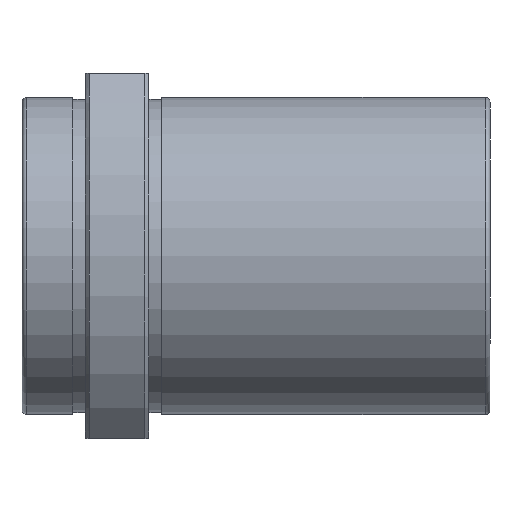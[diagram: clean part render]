
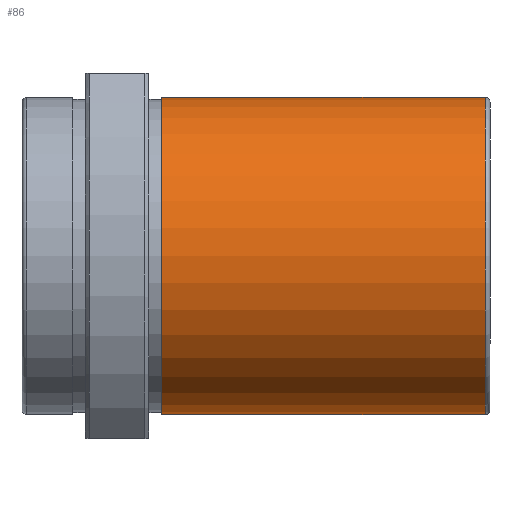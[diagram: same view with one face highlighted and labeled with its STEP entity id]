
A CAD part, top view. The second image highlights one B-rep face of the part: STEP entity #86.
In plain terms, the highlighted cylindrical face has radius 20 mm (diameter 40 mm), a full revolution.
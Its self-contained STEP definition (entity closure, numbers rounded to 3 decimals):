
#86=ADVANCED_FACE('',(#143,#144),#145,.T.);
#143=FACE_OUTER_BOUND('',#242,.T.);
#144=FACE_OUTER_BOUND('',#243,.T.);
#145=CYLINDRICAL_SURFACE('',#244,20.0);
#242=EDGE_LOOP('',(#394));
#243=EDGE_LOOP('',(#395));
#244=AXIS2_PLACEMENT_3D('',#396,#397,#398);
#394=ORIENTED_EDGE('',*,*,#545,.T.);
#395=ORIENTED_EDGE('',*,*,#546,.T.);
#396=CARTESIAN_POINT('',(43.0,0.,0.));
#397=DIRECTION('',(1.0,0.,0.));
#398=DIRECTION('',(0.,-1.0,0.));
#545=EDGE_CURVE('',#624,#624,#625,.T.);
#546=EDGE_CURVE('',#626,#626,#627,.F.);
#624=VERTEX_POINT('',#752);
#625=CIRCLE('',#753,20.0);
#626=VERTEX_POINT('',#754);
#627=CIRCLE('',#755,20.0);
#752=CARTESIAN_POINT('',(1.6,0.,-20.0));
#753=AXIS2_PLACEMENT_3D('',#851,#852,#853);
#754=CARTESIAN_POINT('',(42.4,0.,-20.0));
#755=AXIS2_PLACEMENT_3D('',#854,#855,#856);
#851=CARTESIAN_POINT('',(1.6,0.,0.));
#852=DIRECTION('',(1.0,0.,0.));
#853=DIRECTION('',(0.,0.0,-1.0));
#854=CARTESIAN_POINT('',(42.4,0.,0.));
#855=DIRECTION('',(1.0,0.,0.));
#856=DIRECTION('',(0.,0.0,-1.0));
